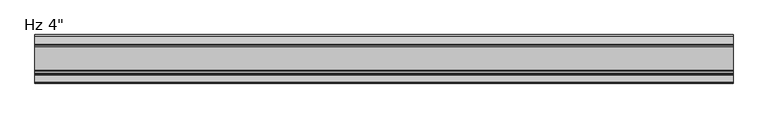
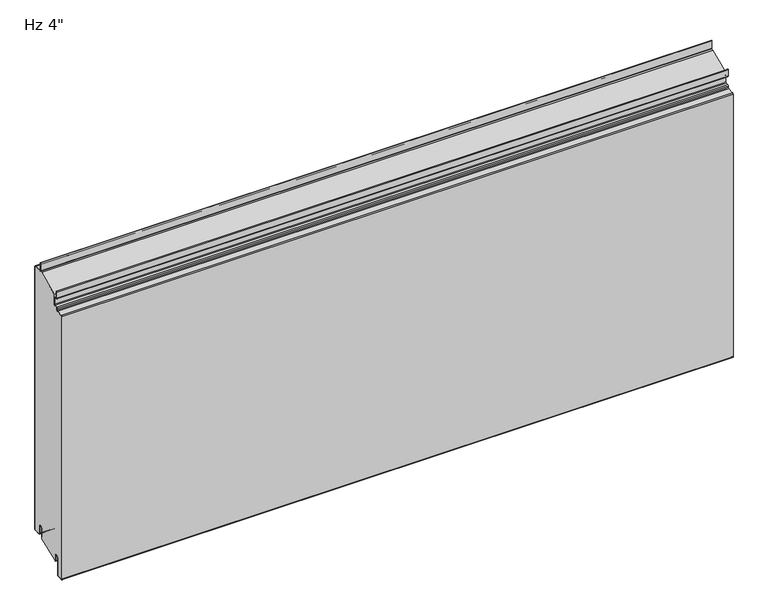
"""IFC4 building model written with IfcOpenShell, lengths in millimetres: plate geometry."""

from ifc_helpers import new_model, si_unit, point, frame, frame_2d, origin, place, context, project, spatial, polyline, circle_curve, ellipse_curve, trimmed, segment, composite_curve, outline, extrude, source, transform, mapped, element, save
from ifc_brep_helpers import plane_surface, cylinder_surface, revolved_surface, extruded_surface, advanced_brep


def plate_9c1a4f24(model_context):
    return source(origin(), model_context, "Body", "SolidModel", [
        extrude(outline(composite_curve([segment(trimmed(circle_curve(frame_2d((-21.43125, 19.05)), 4.96875), [point((-16.4625, 19.05))], [point((-26.4, 19.05))], True, "CARTESIAN"), True, "CONTINUOUS"), segment(polyline([(-26.4, 19.05), (-26.4, -3.1323422), (-74.6157227, -23.01875), (-76.2, -23.01875), (-76.2, -13.5080174), (-76.99375, -13.5080174), (-76.7875, -11.9205174)]), True, "CONTINUOUS"), segment(trimmed(circle_curve(frame_2d((-81.75625, -11.9205174)), 4.96875), [point((-76.7875, -11.9205174))], [point((-86.725, -11.9205174))], True, "CARTESIAN"), True, "CONTINUOUS"), segment(polyline([(-86.725, -11.9205174), (-86.725, -50.1038221)]), True, "CONTINUOUS"), segment(trimmed(circle_curve(frame_2d((-88.10625, -50.1038221)), 1.38125), [point((-86.725, -50.1038221))], [point((-88.033961, -51.4831791))], False, "CARTESIAN"), True, "CONTINUOUS"), segment(polyline([(-88.033961, -51.4831791), (-99.146461, -52.0655606)]), True, "CONTINUOUS"), segment(trimmed(circle_curve(frame_2d((-99.21875, -50.6862035)), 1.38125), [point((-99.146461, -52.0655606))], [point((-100.6, -50.6862035))], False, "CARTESIAN"), True, "CONTINUOUS"), segment(polyline([(-100.6, -50.6862035), (-100.6, 552.5572607)]), True, "CONTINUOUS"), segment(trimmed(circle_curve(frame_2d((-99.21875, 552.5572607)), 1.38125), [point((-100.6, 552.5572607))], [point((-99.291039, 553.9366177))], False, "CARTESIAN"), True, "CONTINUOUS"), segment(polyline([(-99.291039, 553.9366177), (-85.5895807, 554.6546807)]), True, "CONTINUOUS"), segment(trimmed(circle_curve(frame_2d((-85.725, 557.2386347)), 2.5875), [point((-85.5895807, 554.6546807))], [point((-83.1375, 557.2386347))], True, "CARTESIAN"), True, "CONTINUOUS"), segment(polyline([(-83.1375, 557.2386347), (-83.1375, 560.2824411)]), True, "CONTINUOUS"), segment(trimmed(circle_curve(frame_2d((-81.75625, 560.2824411)), 1.38125), [point((-83.1375, 560.2824411))], [point((-81.828539, 561.6617981))], False, "CARTESIAN"), True, "CONTINUOUS"), segment(polyline([(-81.828539, 561.6617981), (-76.0645807, 561.9638744)]), True, "CONTINUOUS"), segment(trimmed(circle_curve(frame_2d((-76.2, 564.5478283)), 2.5875), [point((-76.0645807, 561.9638744))], [point((-73.6125, 564.5478283))], True, "CARTESIAN"), True, "CONTINUOUS"), segment(polyline([(-73.6125, 564.5478283), (-73.6125, 586.9892934), (-24.9057308, 607.80625), (-2.38125, 607.80625)]), True, "CONTINUOUS"), segment(trimmed(circle_curve(frame_2d((-2.38125, 606.425)), 1.38125), [point((-2.38125, 607.80625))], [point((-1.0, 606.425))], False, "CARTESIAN"), True, "CONTINUOUS"), segment(polyline([(-1.0, 606.425), (-1.0, 3.175)]), True, "CONTINUOUS"), segment(trimmed(circle_curve(frame_2d((-2.38125, 3.175)), 1.38125), [point((-1.0, 3.175))], [point((-2.38125, 1.79375))], False, "CARTESIAN"), True, "CONTINUOUS"), segment(polyline([(-2.38125, 1.79375), (-15.08125, 1.79375)]), True, "CONTINUOUS"), segment(trimmed(circle_curve(frame_2d((-15.08125, 3.175)), 1.38125), [point((-15.08125, 1.79375))], [point((-16.4625, 3.175))], False, "CARTESIAN"), True, "CONTINUOUS"), segment(polyline([(-16.4625, 3.175), (-16.4625, 19.05)]), True, "CONTINUOUS")], self_intersect=False)), frame((-730.0, 0.0, 0.0), z_axis=(1.0, 0.0, 0.0), x_axis=(0.0, 1.0, 0.0)), (0.0, 0.0, 1.0), 1460.0),
        extrude(outline(composite_curve([segment(polyline([(-25.4, 0.79375), (-26.4, 0.79375), (-26.4, 19.05)]), True, "CONTINUOUS"), segment(trimmed(circle_curve(frame_2d((-21.43125, 19.05)), 4.96875), [point((-26.4, 19.05))], [point((-16.4625, 19.05))], False, "CARTESIAN"), True, "CONTINUOUS"), segment(polyline([(-16.4625, 19.05), (-16.4625, 3.175)]), True, "CONTINUOUS"), segment(trimmed(circle_curve(frame_2d((-15.08125, 3.175)), 1.38125), [point((-16.4625, 3.175))], [point((-15.08125, 1.79375))], True, "CARTESIAN"), True, "CONTINUOUS"), segment(polyline([(-15.08125, 1.79375), (-2.38125, 1.79375)]), True, "CONTINUOUS"), segment(trimmed(circle_curve(frame_2d((-2.38125, 3.175)), 1.38125), [point((-2.38125, 1.79375))], [point((-1.0, 3.175))], True, "CARTESIAN"), True, "CONTINUOUS"), segment(polyline([(-1.0, 3.175), (-1.0, 606.425)]), True, "CONTINUOUS"), segment(trimmed(circle_curve(frame_2d((-2.38125, 606.425)), 1.38125), [point((-1.0, 606.425))], [point((-2.38125, 607.80625))], True, "CARTESIAN"), True, "CONTINUOUS"), segment(polyline([(-2.38125, 607.80625), (-19.446875, 607.80625)]), True, "CONTINUOUS"), segment(trimmed(circle_curve(frame_2d((-19.446875, 610.39375)), 2.5875), [point((-19.446875, 607.80625))], [point((-22.034375, 610.39375))], False, "CARTESIAN"), True, "CONTINUOUS"), segment(polyline([(-22.034375, 610.39375), (-22.034375, 627.85625), (-21.034375, 627.85625), (-21.034375, 610.39375)]), True, "CONTINUOUS"), segment(trimmed(circle_curve(frame_2d((-19.446875, 610.39375)), 1.5875), [point((-21.034375, 610.39375))], [point((-19.446875, 608.80625))], True, "CARTESIAN"), True, "CONTINUOUS"), segment(polyline([(-19.446875, 608.80625), (-2.38125, 608.80625)]), True, "CONTINUOUS"), segment(trimmed(circle_curve(frame_2d((-2.38125, 606.425)), 2.38125), [point((-2.38125, 608.80625))], [point((0.0, 606.425))], False, "CARTESIAN"), True, "CONTINUOUS"), segment(polyline([(0.0, 606.425), (0.0, 3.175)]), True, "CONTINUOUS"), segment(trimmed(circle_curve(frame_2d((-2.38125, 3.175)), 2.38125), [point((0.0, 3.175))], [point((-2.38125, 0.79375))], False, "CARTESIAN"), True, "CONTINUOUS"), segment(polyline([(-2.38125, 0.79375), (-15.08125, 0.79375)]), True, "CONTINUOUS"), segment(trimmed(circle_curve(frame_2d((-15.08125, 3.175)), 2.38125), [point((-15.08125, 0.79375))], [point((-17.4625, 3.175))], False, "CARTESIAN"), True, "CONTINUOUS"), segment(polyline([(-17.4625, 3.175), (-17.4625, 19.05)]), True, "CONTINUOUS"), segment(trimmed(circle_curve(frame_2d((-21.43125, 19.05)), 3.96875), [point((-17.4625, 19.05))], [point((-25.4, 19.05))], True, "CARTESIAN"), True, "CONTINUOUS"), segment(polyline([(-25.4, 19.05), (-25.4, 0.79375)]), True, "CONTINUOUS")], self_intersect=False)), frame((-730.0, 0.0, 0.0), z_axis=(1.0, 0.0, 0.0), x_axis=(0.0, 1.0, 0.0)), (0.0, 0.0, 1.0), 1460.0),
        advanced_brep(
        [(-730.0, -76.2, -23.2314549), (-730.0, -77.7875, -23.2314549), (-730.0, -77.7875, -11.9205174), (-730.0, -85.725, -11.9205174), (-730.0, -85.725, -50.1038221), (-730.0, -87.981625, -52.4818086), (-730.0, -99.094125, -53.0641901), (-730.0, -101.6, -50.6862035), (-730.0, -101.6, 552.5572607), (-730.0, -99.343375, 554.9352473), (-730.0, -85.6419167, 555.6533103), (-730.0, -84.1375, 557.2386347), (-730.0, -84.1375, 560.2824411), (-730.0, -81.880875, 562.6604276), (-730.0, -76.1169167, 562.9625039), (-730.0, -74.6125, 564.5478283), (-730.0, -74.6125, 579.4232326), (-730.0, -76.2, 581.0107326), (-730.0, -80.3671875, 581.0107326), (-730.0, -82.7484375, 583.3919826), (-730.0, -82.7484375, 597.8836032), (-730.0, -80.9546875, 597.8836032), (-730.0, -80.9546875, 588.1544826), (-730.0, -81.7484375, 588.1544826), (-730.0, -81.7484375, 583.3919826), (-730.0, -80.3671875, 582.0107326), (-730.0, -76.2, 582.0107326), (-730.0, -73.6125, 579.4232326), (-730.0, -73.6125, 564.5478283), (-730.0, -76.0645807, 561.9638744), (-730.0, -81.828539, 561.6617981), (-730.0, -83.1375, 560.2824411), (-730.0, -83.1375, 557.2386347), (-730.0, -85.5895807, 554.6546807), (-730.0, -99.291039, 553.9366177), (-730.0, -100.6, 552.5572607), (-730.0, -100.6, -50.6862035), (-730.0, -99.146461, -52.0655606), (-730.0, -88.033961, -51.4831791), (-730.0, -86.725, -50.1038221), (-730.0, -86.725, -11.9205174), (-730.0, -76.7875, -11.9205174), (-730.0, -76.99375, -13.5080174), (-730.0, -76.2, -13.5080174), (730.0, -76.2, -23.2314549), (730.0, -76.2, -13.5080174), (730.0, -76.99375, -13.5080174), (730.0, -76.7875, -11.9205174), (730.0, -86.725, -11.9205174), (730.0, -86.725, -50.1038221), (730.0, -88.033961, -51.4831791), (730.0, -99.146461, -52.0655606), (730.0, -100.6, -50.6862035), (730.0, -100.6, 552.5572607), (730.0, -99.291039, 553.9366177), (730.0, -85.5895807, 554.6546807), (730.0, -83.1375, 557.2386347), (730.0, -83.1375, 560.2824411), (730.0, -81.828539, 561.6617981), (730.0, -76.0645807, 561.9638744), (730.0, -73.6125, 564.5478283), (730.0, -73.6125, 579.4232326), (730.0, -76.2, 582.0107326), (730.0, -80.3671875, 582.0107326), (730.0, -81.7484375, 583.3919826), (730.0, -81.7484375, 588.1544826), (730.0, -80.9546875, 588.1544826), (730.0, -80.9546875, 597.8836032), (730.0, -82.7484375, 597.8836032), (730.0, -82.7484375, 583.3919826), (730.0, -80.3671875, 581.0107326), (730.0, -76.2, 581.0107326), (730.0, -74.6125, 579.4232326), (730.0, -74.6125, 564.5478283), (730.0, -76.1169167, 562.9625039), (730.0, -81.880875, 562.6604276), (730.0, -84.1375, 560.2824411), (730.0, -84.1375, 557.2386347), (730.0, -85.6419167, 555.6533103), (730.0, -99.343375, 554.9352473), (730.0, -101.6, 552.5572607), (730.0, -101.6, -50.6862035), (730.0, -99.094125, -53.0641901), (730.0, -87.981625, -52.4818086), (730.0, -85.725, -50.1038221), (730.0, -85.725, -11.9205174), (730.0, -77.7875, -11.9205174), (730.0, -77.7875, -23.2314549)],
        [
            (0, 1, circle_curve(frame((-730.0, -76.99375, -23.2314549), z_axis=(-1.0, 0.0, 0.0), x_axis=(0.0, 0.0, 1.0)), 0.79375)),
            (1, 2),
            (2, 3, circle_curve(frame((-730.0, -81.75625, -11.9205174), z_axis=(1.0, 0.0, 0.0), x_axis=(0.0, 0.0, 1.0)), 3.96875)),
            (3, 4),
            (4, 5, circle_curve(frame((-730.0, -88.10625, -50.1038221), z_axis=(-1.0, 0.0, 0.0), x_axis=(0.0, 0.0, 1.0)), 2.38125)),
            (5, 6),
            (6, 7, circle_curve(frame((-730.0, -99.21875, -50.6862035), z_axis=(-1.0, 0.0, 0.0), x_axis=(0.0, 0.0, 1.0)), 2.38125)),
            (7, 8),
            (8, 9, circle_curve(frame((-730.0, -99.21875, 552.5572607), z_axis=(-1.0, 0.0, 0.0), x_axis=(0.0, 0.0, 1.0)), 2.38125)),
            (9, 10),
            (10, 11, circle_curve(frame((-730.0, -85.725, 557.2386347), z_axis=(1.0, 0.0, 0.0), x_axis=(0.0, 0.0, 1.0)), 1.5875)),
            (11, 12),
            (12, 13, circle_curve(frame((-730.0, -81.75625, 560.2824411), z_axis=(-1.0, 0.0, 0.0), x_axis=(0.0, 0.0, 1.0)), 2.38125)),
            (13, 14),
            (14, 15, circle_curve(frame((-730.0, -76.2, 564.5478283), z_axis=(1.0, 0.0, 0.0), x_axis=(0.0, 0.0, 1.0)), 1.5875)),
            (15, 16),
            (16, 17, circle_curve(frame((-730.0, -76.2, 579.4232326), z_axis=(1.0, 0.0, 0.0), x_axis=(0.0, 0.0, 1.0)), 1.5875)),
            (17, 18),
            (18, 19, circle_curve(frame((-730.0, -80.3671875, 583.3919826), z_axis=(-1.0, 0.0, 0.0), x_axis=(0.0, 0.0, 1.0)), 2.38125)),
            (19, 20),
            (20, 21, ellipse_curve(frame((-730.0, -81.8515625, 597.8836032), z_axis=(-1.0, 0.0, 0.0), x_axis=(0.0, 1.0, 0.0)), 0.896875, 0.7852275)),
            (21, 22),
            (22, 23),
            (23, 24),
            (24, 25, circle_curve(frame((-730.0, -80.3671875, 583.3919826), z_axis=(1.0, 0.0, 0.0), x_axis=(0.0, 0.0, 1.0)), 1.38125)),
            (25, 26),
            (26, 27, circle_curve(frame((-730.0, -76.2, 579.4232326), z_axis=(-1.0, 0.0, 0.0), x_axis=(0.0, 0.0, 1.0)), 2.5875)),
            (27, 28),
            (28, 29, circle_curve(frame((-730.0, -76.2, 564.5478283), z_axis=(-1.0, 0.0, 0.0), x_axis=(0.0, 0.0, 1.0)), 2.5875)),
            (29, 30),
            (30, 31, circle_curve(frame((-730.0, -81.75625, 560.2824411), z_axis=(1.0, 0.0, 0.0), x_axis=(0.0, 0.0, 1.0)), 1.38125)),
            (31, 32),
            (32, 33, circle_curve(frame((-730.0, -85.725, 557.2386347), z_axis=(-1.0, 0.0, 0.0), x_axis=(0.0, 0.0, 1.0)), 2.5875)),
            (33, 34),
            (34, 35, circle_curve(frame((-730.0, -99.21875, 552.5572607), z_axis=(1.0, 0.0, 0.0), x_axis=(0.0, 0.0, 1.0)), 1.38125)),
            (35, 36),
            (36, 37, circle_curve(frame((-730.0, -99.21875, -50.6862035), z_axis=(1.0, 0.0, 0.0), x_axis=(0.0, 0.0, 1.0)), 1.38125)),
            (37, 38),
            (38, 39, circle_curve(frame((-730.0, -88.10625, -50.1038221), z_axis=(1.0, 0.0, 0.0), x_axis=(0.0, 0.0, 1.0)), 1.38125)),
            (39, 40),
            (40, 41, circle_curve(frame((-730.0, -81.75625, -11.9205174), z_axis=(-1.0, 0.0, 0.0), x_axis=(0.0, 0.0, 1.0)), 4.96875)),
            (41, 42),
            (42, 43),
            (43, 0),
            (44, 45),
            (45, 46),
            (46, 47),
            (47, 48, circle_curve(frame((730.0, -81.75625, -11.9205174), z_axis=(1.0, 0.0, 0.0), x_axis=(0.0, 0.0, 1.0)), 4.96875)),
            (48, 49),
            (49, 50, circle_curve(frame((730.0, -88.10625, -50.1038221), z_axis=(-1.0, 0.0, 0.0), x_axis=(0.0, 0.0, 1.0)), 1.38125)),
            (50, 51),
            (51, 52, circle_curve(frame((730.0, -99.21875, -50.6862035), z_axis=(-1.0, 0.0, 0.0), x_axis=(0.0, 0.0, 1.0)), 1.38125)),
            (52, 53),
            (53, 54, circle_curve(frame((730.0, -99.21875, 552.5572607), z_axis=(-1.0, 0.0, 0.0), x_axis=(0.0, 0.0, 1.0)), 1.38125)),
            (54, 55),
            (55, 56, circle_curve(frame((730.0, -85.725, 557.2386347), z_axis=(1.0, 0.0, 0.0), x_axis=(0.0, 0.0, 1.0)), 2.5875)),
            (56, 57),
            (57, 58, circle_curve(frame((730.0, -81.75625, 560.2824411), z_axis=(-1.0, 0.0, 0.0), x_axis=(0.0, 0.0, 1.0)), 1.38125)),
            (58, 59),
            (59, 60, circle_curve(frame((730.0, -76.2, 564.5478283), z_axis=(1.0, 0.0, 0.0), x_axis=(0.0, 0.0, 1.0)), 2.5875)),
            (60, 61),
            (61, 62, circle_curve(frame((730.0, -76.2, 579.4232326), z_axis=(1.0, 0.0, 0.0), x_axis=(0.0, 0.0, 1.0)), 2.5875)),
            (62, 63),
            (63, 64, circle_curve(frame((730.0, -80.3671875, 583.3919826), z_axis=(-1.0, 0.0, 0.0), x_axis=(0.0, 0.0, 1.0)), 1.38125)),
            (64, 65),
            (65, 66),
            (66, 67),
            (67, 68, ellipse_curve(frame((730.0, -81.8515625, 597.8836032), z_axis=(1.0, 0.0, 0.0), x_axis=(0.0, 1.0, 0.0)), 0.896875, 0.7852275)),
            (68, 69),
            (69, 70, circle_curve(frame((730.0, -80.3671875, 583.3919826), z_axis=(1.0, 0.0, 0.0), x_axis=(0.0, 0.0, 1.0)), 2.38125)),
            (70, 71),
            (71, 72, circle_curve(frame((730.0, -76.2, 579.4232326), z_axis=(-1.0, 0.0, 0.0), x_axis=(0.0, 0.0, 1.0)), 1.5875)),
            (72, 73),
            (73, 74, circle_curve(frame((730.0, -76.2, 564.5478283), z_axis=(-1.0, 0.0, 0.0), x_axis=(0.0, 0.0, 1.0)), 1.5875)),
            (74, 75),
            (75, 76, circle_curve(frame((730.0, -81.75625, 560.2824411), z_axis=(1.0, 0.0, 0.0), x_axis=(0.0, 0.0, 1.0)), 2.38125)),
            (76, 77),
            (77, 78, circle_curve(frame((730.0, -85.725, 557.2386347), z_axis=(-1.0, 0.0, 0.0), x_axis=(0.0, 0.0, 1.0)), 1.5875)),
            (78, 79),
            (79, 80, circle_curve(frame((730.0, -99.21875, 552.5572607), z_axis=(1.0, 0.0, 0.0), x_axis=(0.0, 0.0, 1.0)), 2.38125)),
            (80, 81),
            (81, 82, circle_curve(frame((730.0, -99.21875, -50.6862035), z_axis=(1.0, 0.0, 0.0), x_axis=(0.0, 0.0, 1.0)), 2.38125)),
            (82, 83),
            (83, 84, circle_curve(frame((730.0, -88.10625, -50.1038221), z_axis=(1.0, 0.0, 0.0), x_axis=(0.0, 0.0, 1.0)), 2.38125)),
            (84, 85),
            (85, 86, circle_curve(frame((730.0, -81.75625, -11.9205174), z_axis=(-1.0, 0.0, 0.0), x_axis=(0.0, 0.0, 1.0)), 3.96875)),
            (86, 87),
            (87, 44, circle_curve(frame((730.0, -76.99375, -23.2314549), z_axis=(1.0, 0.0, 0.0), x_axis=(0.0, 0.0, 1.0)), 0.79375)),
            (23, 65),
            (64, 24),
            (28, 60),
            (59, 29),
            (58, 30),
            (57, 31),
            (56, 32),
            (55, 33),
            (54, 34),
            (37, 51),
            (50, 38),
            (49, 39),
            (48, 40),
            (43, 45),
            (44, 0),
            (87, 1),
            (86, 2),
            (85, 3),
            (84, 4),
            (83, 5),
            (82, 6),
            (9, 79),
            (78, 10),
            (77, 11),
            (76, 12),
            (75, 13),
            (74, 14),
            (73, 15),
            (72, 16),
            (71, 17),
            (70, 18),
            (69, 19),
            (27, 61),
            (26, 62),
            (25, 63),
            (21, 67),
            (66, 22),
            (20, 68),
            (41, 47),
            (46, 42),
            (53, 35),
            (52, 36),
            (81, 7),
            (80, 8),
        ],
        [
            plane_surface(frame((-730.0, -101.6, 304.8), z_axis=(-1.0, 0.0, 0.0), x_axis=(0.0, -1.0, 0.0))),
            plane_surface(frame((730.0, -101.6, 304.8), z_axis=(1.0, 0.0, 0.0), x_axis=(0.0, -1.0, 0.0))),
            plane_surface(frame((-730.0, -81.7484375, 583.3919826), z_axis=(0.0, 1.0, 0.0), x_axis=(1.0, 0.0, 0.0))),
            cylinder_surface(frame((-730.0, -76.2, 564.5478283), z_axis=(-1.0, 0.0, 0.0), x_axis=(0.0, 0.0, 1.0)), 2.5875),
            plane_surface(frame((-730.0, -81.828539, 561.6617981), z_axis=(0.0, 0.0523359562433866, -0.9986295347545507), x_axis=(1.0, 0.0, 0.0))),
            revolved_surface(polyline([(730.0, -81.75625, 561.6636911), (-730.0, -81.75625, 561.6636911)]), (-730.0, -81.75625, 560.2824411), (1.0, 0.0, 0.0)),
            plane_surface(frame((-730.0, -83.1375, 557.2386347), z_axis=(0.0, 1.0, 0.0), x_axis=(1.0, 0.0, 0.0))),
            cylinder_surface(frame((-730.0, -85.725, 557.2386347), z_axis=(-1.0, 0.0, 0.0), x_axis=(0.0, 0.0, 1.0)), 2.5875),
            plane_surface(frame((-730.0, -99.291039, 553.9366177), z_axis=(0.0, 0.05233595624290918, -0.9986295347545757), x_axis=(1.0, 0.0, 0.0))),
            plane_surface(frame((-730.0, -88.033961, -51.4831791), z_axis=(0.0, -0.05233595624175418, 0.9986295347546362), x_axis=(1.0, 0.0, 0.0))),
            revolved_surface(polyline([(730.0, -88.10625, -48.7225721), (-730.0, -88.10625, -48.7225721)]), (-730.0, -88.10625, -50.1038221), (1.0, 0.0, 0.0)),
            plane_surface(frame((-730.0, -86.725, -11.9205174), z_axis=(0.0, -1.0, 0.0), x_axis=(1.0, 0.0, 0.0))),
            plane_surface(frame((-730.0, -76.2, -23.2314549), z_axis=(0.0, 1.0, 0.0), x_axis=(1.0, 0.0, 0.0))),
            cylinder_surface(frame((-730.0, -76.99375, -23.2314549), z_axis=(-1.0, 0.0, 0.0), x_axis=(0.0, 0.0, 1.0)), 0.79375),
            plane_surface(frame((-730.0, -77.7875, -11.9205174), z_axis=(0.0, -1.0, 0.0), x_axis=(1.0, 0.0, 0.0))),
            revolved_surface(polyline([(730.0, -81.75625, -7.9517674), (-730.0, -81.75625, -7.9517674)]), (-730.0, -81.75625, -11.9205174), (1.0, 0.0, 0.0)),
            plane_surface(frame((-730.0, -85.725, -50.1038221), z_axis=(0.0, 1.0, 0.0), x_axis=(1.0, 0.0, 0.0))),
            cylinder_surface(frame((-730.0, -88.10625, -50.1038221), z_axis=(-1.0, 0.0, 0.0), x_axis=(0.0, 0.0, 1.0)), 2.38125),
            plane_surface(frame((-730.0, -99.094125, -53.0641901), z_axis=(0.0, 0.05233595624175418, -0.9986295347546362), x_axis=(1.0, 0.0, 0.0))),
            plane_surface(frame((-730.0, -85.6419167, 555.6533103), z_axis=(0.0, -0.052335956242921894, 0.998629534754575), x_axis=(1.0, 0.0, 0.0))),
            revolved_surface(polyline([(730.0, -85.725, 558.8261347), (-730.0, -85.725, 558.8261347)]), (-730.0, -85.725, 557.2386347), (1.0, 0.0, 0.0)),
            plane_surface(frame((-730.0, -84.1375, 560.2824411), z_axis=(0.0, -1.0, 0.0), x_axis=(1.0, 0.0, 0.0))),
            cylinder_surface(frame((-730.0, -81.75625, 560.2824411), z_axis=(-1.0, 0.0, 0.0), x_axis=(0.0, 0.0, 1.0)), 2.38125),
            plane_surface(frame((-730.0, -76.1169167, 562.9625039), z_axis=(0.0, -0.05233595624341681, 0.9986295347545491), x_axis=(1.0, 0.0, 0.0))),
            revolved_surface(polyline([(730.0, -76.2, 566.1353283), (-730.0, -76.2, 566.1353283)]), (-730.0, -76.2, 564.5478283), (1.0, 0.0, 0.0)),
            plane_surface(frame((-730.0, -74.6125, 579.4232326), z_axis=(0.0, -1.0, 0.0), x_axis=(1.0, 0.0, 0.0))),
            revolved_surface(polyline([(730.0, -76.2, 581.0107326), (-730.0, -76.2, 581.0107326)]), (-730.0, -76.2, 579.4232326), (1.0, 0.0, 0.0)),
            plane_surface(frame((-730.0, -80.3671875, 581.0107326), z_axis=(0.0, 0.0, -1.0), x_axis=(1.0, 0.0, 0.0))),
            cylinder_surface(frame((-730.0, -80.3671875, 583.3919826), z_axis=(-1.0, 0.0, 0.0), x_axis=(0.0, 0.0, 1.0)), 2.38125),
            plane_surface(frame((-730.0, -73.6125, 564.5478283), z_axis=(0.0, 1.0, 0.0), x_axis=(1.0, 0.0, 0.0))),
            cylinder_surface(frame((-730.0, -76.2, 579.4232326), z_axis=(-1.0, 0.0, 0.0), x_axis=(0.0, 0.0, 1.0)), 2.5875),
            plane_surface(frame((-730.0, -76.2, 582.0107326), z_axis=(0.0, 0.0, 1.0), x_axis=(1.0, 0.0, 0.0))),
            revolved_surface(polyline([(730.0, -80.3671875, 584.7732326), (-730.0, -80.3671875, 584.7732326)]), (-730.0, -80.3671875, 583.3919826), (1.0, 0.0, 0.0)),
            plane_surface(frame((-730.0, -80.9546875, 588.1544826), z_axis=(0.0, 1.0, 0.0), x_axis=(1.0, 0.0, 0.0))),
            extruded_surface(trimmed(ellipse_curve(frame((-730.0, -81.8515625, 597.8836032), z_axis=(1.0, 0.0, 0.0), x_axis=(0.0, 1.0, 0.0)), 0.896875, 0.7852275), [point((-730.0, -80.9546875, 597.8836032))], [point((-730.0, -82.7484375, 597.8836032))], True, "CARTESIAN"), (1460.0, 0.0, 0.0), 1460.0),
            plane_surface(frame((-730.0, -76.99375, -13.5080174), z_axis=(0.0, 0.9916655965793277, -0.12883844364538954), x_axis=(1.0, 0.0, 0.0))),
            cylinder_surface(frame((-730.0, -81.75625, -11.9205174), z_axis=(-1.0, 0.0, 0.0), x_axis=(0.0, 0.0, 1.0)), 4.96875),
            plane_surface(frame((-730.0, -76.2, -13.5080174), z_axis=(0.0, 0.0, 1.0), x_axis=(1.0, 0.0, 0.0))),
            plane_surface(frame((-730.0, -81.7484375, 588.1544826), z_axis=(0.0, 0.0, -1.0), x_axis=(1.0, 0.0, 0.0))),
            revolved_surface(polyline([(730.0, -99.21875, 553.9385107), (-730.0, -99.21875, 553.9385107)]), (-730.0, -99.21875, 552.5572607), (1.0, 0.0, 0.0)),
            plane_surface(frame((-730.0, -100.6, -50.6862035), z_axis=(0.0, 1.0, 0.0), x_axis=(1.0, 0.0, 0.0))),
            revolved_surface(polyline([(730.0, -99.21875, -49.304953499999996), (-730.0, -99.21875, -49.304953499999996)]), (-730.0, -99.21875, -50.6862035), (1.0, 0.0, 0.0)),
            cylinder_surface(frame((-730.0, -99.21875, -50.6862035), z_axis=(-1.0, 0.0, 0.0), x_axis=(0.0, 0.0, 1.0)), 2.38125),
            plane_surface(frame((-730.0, -101.6, 552.5572607), z_axis=(0.0, -1.0, 0.0), x_axis=(1.0, 0.0, 0.0))),
            cylinder_surface(frame((-730.0, -99.21875, 552.5572607), z_axis=(-1.0, 0.0, 0.0), x_axis=(0.0, 0.0, 1.0)), 2.38125),
            plane_surface(frame((-730.0, -82.7484375, 597.8836032), z_axis=(0.0, -1.0, 0.0), x_axis=(1.0, 0.0, 0.0))),
        ],
        [
            (0, [[1, 2, 3, 4, 5, 6, 7, 8, 9, 10, 11, 12, 13, 14, 15, 16, 17, 18, 19, 20, 21, 22, 23, 24, 25, 26, 27, 28, 29, 30, 31, 32, 33, 34, 35, 36, 37, 38, 39, 40, 41, 42, 43, 44]]),
            (1, [[45, 46, 47, 48, 49, 50, 51, 52, 53, 54, 55, 56, 57, 58, 59, 60, 61, 62, 63, 64, 65, 66, 67, 68, 69, 70, 71, 72, 73, 74, 75, 76, 77, 78, 79, 80, 81, 82, 83, 84, 85, 86, 87, 88]]),
            (2, [[89, -65, 90, -24]]),
            (3, [[91, -60, 92, -29]]),
            (4, [[-92, -59, 93, -30]]),
            (5, [[-93, -58, 94, -31]]),
            (6, [[-94, -57, 95, -32]]),
            (7, [[-95, -56, 96, -33]]),
            (8, [[-96, -55, 97, -34]]),
            (9, [[98, -51, 99, -38]]),
            (10, [[-99, -50, 100, -39]]),
            (11, [[-100, -49, 101, -40]]),
            (12, [[102, -45, 103, -44]]),
            (13, [[-103, -88, 104, -1]]),
            (14, [[-104, -87, 105, -2]]),
            (15, [[-105, -86, 106, -3]]),
            (16, [[-106, -85, 107, -4]]),
            (17, [[-107, -84, 108, -5]]),
            (18, [[-108, -83, 109, -6]]),
            (19, [[110, -79, 111, -10]]),
            (20, [[-111, -78, 112, -11]]),
            (21, [[-112, -77, 113, -12]]),
            (22, [[-113, -76, 114, -13]]),
            (23, [[-114, -75, 115, -14]]),
            (24, [[-115, -74, 116, -15]]),
            (25, [[-116, -73, 117, -16]]),
            (26, [[-117, -72, 118, -17]]),
            (27, [[-118, -71, 119, -18]]),
            (28, [[-119, -70, 120, -19]]),
            (29, [[121, -61, -91, -28]]),
            (30, [[122, -62, -121, -27]]),
            (31, [[123, -63, -122, -26]]),
            (32, [[-90, -64, -123, -25]]),
            (33, [[124, -67, 125, -22]]),
            (34, [[126, -68, -124, -21]]),
            (35, [[127, -47, 128, -42]]),
            (36, [[-101, -48, -127, -41]]),
            (37, [[-128, -46, -102, -43]]),
            (38, [[-125, -66, -89, -23]]),
            (39, [[-97, -54, 129, -35]]),
            (40, [[-129, -53, 130, -36]]),
            (41, [[-130, -52, -98, -37]]),
            (42, [[-109, -82, 131, -7]]),
            (43, [[-131, -81, 132, -8]]),
            (44, [[-132, -80, -110, -9]]),
            (45, [[-120, -69, -126, -20]]),
        ],
    ),
    ])


if __name__ == "__main__":
    model = new_model("IFC4")
    model_context = context("Model", 3, world=origin())
    ifc_project = project(units=[si_unit("LENGTHUNIT", "METRE", prefix="MILLI")], contexts=[model_context])
    site = spatial("IfcSite", under=ifc_project)
    building = spatial("IfcBuilding", under=site)
    placement = place(None, origin())
    plate_shape = plate_9c1a4f24(model_context)
    element("IfcPlate", 1, ObjectType="KIP-24-DWTR-R19-CP-Hz-F : Hz 4\"", at=placement, inside=building, context=model_context, shape_type="MappedRepresentation", body=[
        mapped(plate_shape, transform((0.0, 0.0, 0.0), x_axis=(1.0, 0.0, 0.0), y_axis=(0.0, 1.0, 0.0), z_axis=(0.0, 0.0, 1.0))),
    ])
    save(model, "model.ifc")
